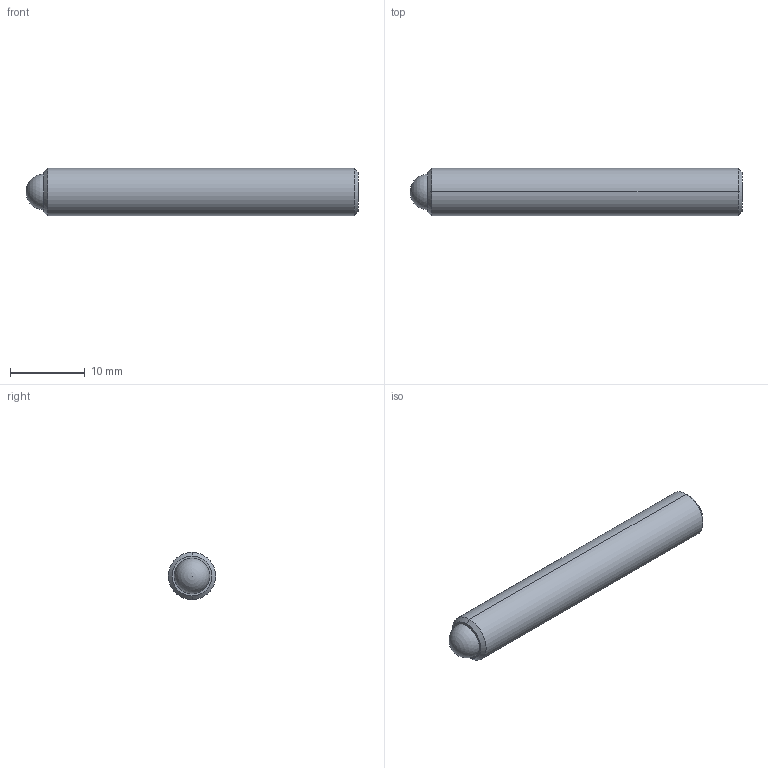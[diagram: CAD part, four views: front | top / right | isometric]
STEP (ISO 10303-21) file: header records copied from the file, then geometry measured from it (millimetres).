
FILE_DESCRIPTION (( 'STEP AP214' ), '1' );
FILE_NAME ('TS250-100-1750-AA.STEP', '2013-02-13T14:04:01', ( 'workpc' ), ( 'Microsoft' ), 'SwSTEP 2.0', 'SolidWorks 2013', '' );
FILE_SCHEMA (( 'AUTOMOTIVE_DESIGN' ));
Length unit declared in the file: inch
Products named in the file (1): TS250-100-1750-AA
Bounding box: 44.45 x 6.35 x 6.35 mm (x, y, z)
Volume: 1340.8 mm3; surface area: 1006.7 mm2
Topology: 2 solids, 2 shells, 20 faces, 45 edges, 29 vertices
Faces by surface type: plane 10, cylinder 4, cone 4, sphere 2
Entity records: 599 total; most frequent: DIRECTION 96, CARTESIAN_POINT 87, ORIENTED_EDGE 80, EDGE_CURVE 40, AXIS2_PLACEMENT_3D 35, VECTOR 26, LINE 26, VERTEX_POINT 26
